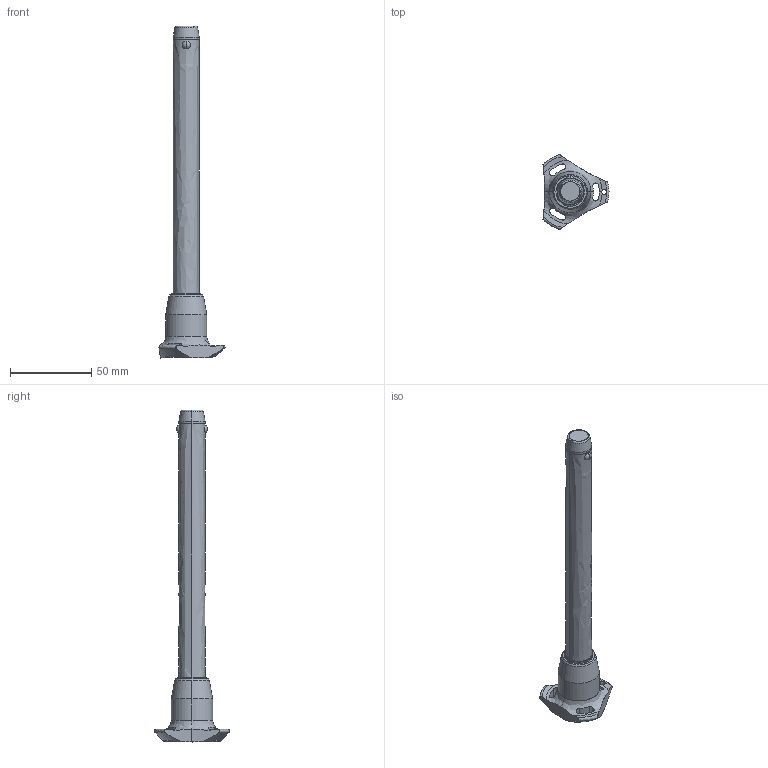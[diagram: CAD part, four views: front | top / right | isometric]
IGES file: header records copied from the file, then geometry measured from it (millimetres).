
Start section: SolidWorks IGES file using analytic representation for surfaces
Global section: file name: C:\Users\ianosborn\Desktop\QR1726_v2\QR1726_v2_20251115_IGES\QR1726.M16-150-T.igs; native system: SolidWorks 2019; preprocessor: SolidWorks 2019; author: IanOsborn; date: 251113.112320; units: millimetre
Bounding box: 40.5 x 45.88 x 203.7 mm (x, y, z)
Surface area: 14132.8 mm2 (no closed solid volume)
Topology: 0 solids, 0 shells, 68 faces, 1402 edges, 1398 vertices
Faces by surface type: revolution 52, bspline 16
